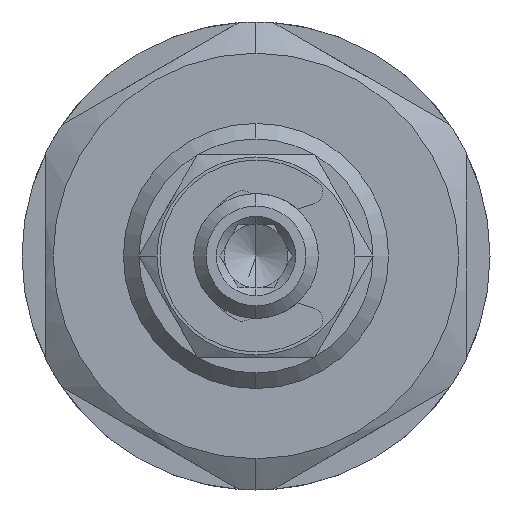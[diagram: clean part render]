
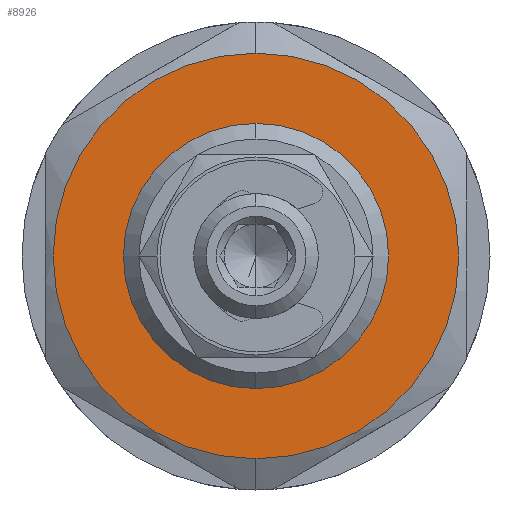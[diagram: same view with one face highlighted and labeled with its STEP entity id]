
A CAD part, left-side view. The second image highlights one B-rep face of the part: STEP entity #8926.
In plain terms, the highlighted planar face has unit normal (-1, 0, 0).
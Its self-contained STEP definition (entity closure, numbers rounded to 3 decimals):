
#29 = DIRECTION ( 'NONE',  ( 0., 0., 1. ) ) ;
#259 = ORIENTED_EDGE ( 'NONE', *, *, #657, .T. ) ;
#409 = DIRECTION ( 'NONE',  ( -1., 0., 0. ) ) ;
#561 = VERTEX_POINT ( 'NONE', #5277 ) ;
#657 = EDGE_CURVE ( 'NONE', #7249, #1880, #3332, .T. ) ;
#1199 = CARTESIAN_POINT ( 'NONE',  ( 13., 0., 8.5 ) ) ;
#1426 = CARTESIAN_POINT ( 'NONE',  ( 13., 8.5, 0. ) ) ;
#1880 = VERTEX_POINT ( 'NONE', #8009 ) ;
#1888 = DIRECTION ( 'NONE',  ( -1., 0., 0. ) ) ;
#2100 = FACE_OUTER_BOUND ( 'NONE', #5407, .T. ) ;
#2106 = AXIS2_PLACEMENT_3D ( 'NONE', #6283, #8429, #7817 ) ;
#2597 = AXIS2_PLACEMENT_3D ( 'NONE', #5190, #8697, #29 ) ;
#2628 = VERTEX_POINT ( 'NONE', #1199 ) ;
#2788 = EDGE_CURVE ( 'NONE', #561, #2628, #7383, .T. ) ;
#2864 = EDGE_CURVE ( 'NONE', #2628, #561, #5007, .T. ) ;
#2995 = AXIS2_PLACEMENT_3D ( 'NONE', #1426, #6407, #5653 ) ;
#2998 = EDGE_LOOP ( 'NONE', ( #3006, #3851 ) ) ;
#3006 = ORIENTED_EDGE ( 'NONE', *, *, #2864, .F. ) ;
#3332 = CIRCLE ( 'NONE', #2106, 13. ) ;
#3851 = ORIENTED_EDGE ( 'NONE', *, *, #2788, .F. ) ;
#4691 = DIRECTION ( 'NONE',  ( 0., 0., 1. ) ) ;
#5007 = CIRCLE ( 'NONE', #2597, 8.5 ) ;
#5190 = CARTESIAN_POINT ( 'NONE',  ( 13., 0., 0. ) ) ;
#5277 = CARTESIAN_POINT ( 'NONE',  ( 13., 0., -8.5 ) ) ;
#5407 = EDGE_LOOP ( 'NONE', ( #259, #5641 ) ) ;
#5641 = ORIENTED_EDGE ( 'NONE', *, *, #9254, .T. ) ;
#5653 = DIRECTION ( 'NONE',  ( 0., 0., 1. ) ) ;
#5698 = FACE_BOUND ( 'NONE', #2998, .T. ) ;
#5739 = PLANE ( 'NONE',  #2995 ) ;
#5867 = CIRCLE ( 'NONE', #8611, 13. ) ;
#6201 = CARTESIAN_POINT ( 'NONE',  ( 13., 0., 0. ) ) ;
#6283 = CARTESIAN_POINT ( 'NONE',  ( 13., 0., 0. ) ) ;
#6407 = DIRECTION ( 'NONE',  ( -1., 0., 0. ) ) ;
#6819 = CARTESIAN_POINT ( 'NONE',  ( 13., 0., 0. ) ) ;
#7249 = VERTEX_POINT ( 'NONE', #7339 ) ;
#7339 = CARTESIAN_POINT ( 'NONE',  ( 13., 0., -13. ) ) ;
#7383 = CIRCLE ( 'NONE', #8617, 8.5 ) ;
#7817 = DIRECTION ( 'NONE',  ( 0., 0., 1. ) ) ;
#8009 = CARTESIAN_POINT ( 'NONE',  ( 13., 0., 13. ) ) ;
#8246 = DIRECTION ( 'NONE',  ( 0., 0., 1. ) ) ;
#8429 = DIRECTION ( 'NONE',  ( -1., 0., 0. ) ) ;
#8611 = AXIS2_PLACEMENT_3D ( 'NONE', #6201, #1888, #4691 ) ;
#8617 = AXIS2_PLACEMENT_3D ( 'NONE', #6819, #409, #8246 ) ;
#8697 = DIRECTION ( 'NONE',  ( -1., 0., 0. ) ) ;
#8926 = ADVANCED_FACE ( 'NONE', ( #2100, #5698 ), #5739, .T. ) ;
#9254 = EDGE_CURVE ( 'NONE', #1880, #7249, #5867, .T. ) ;
